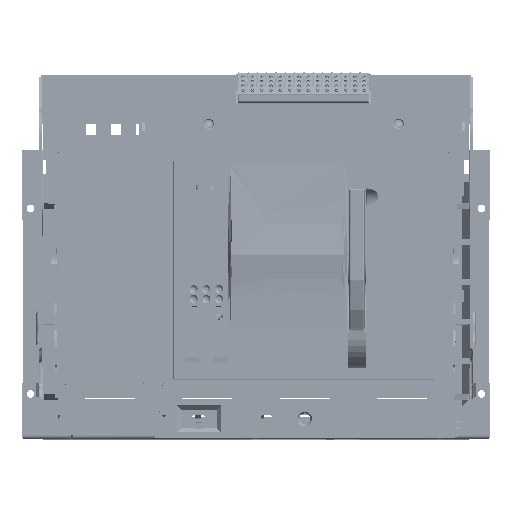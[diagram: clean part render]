
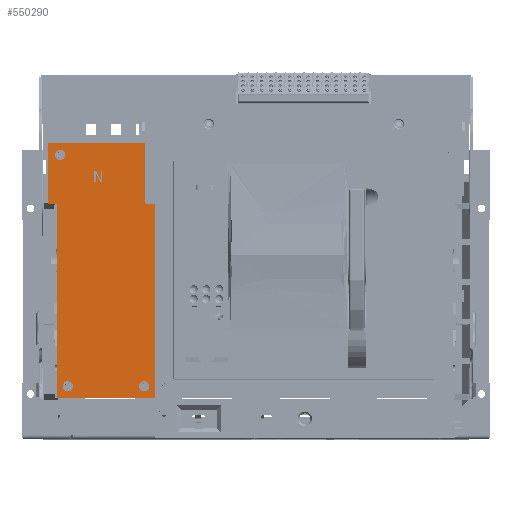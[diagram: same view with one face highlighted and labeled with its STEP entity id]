
A CAD part, top view. The second image highlights one B-rep face of the part: STEP entity #550290.
In plain terms, the highlighted planar face has unit normal (0, 0, 1) as drawn and (0, -1, 0) by its records, which use the part's own axes.
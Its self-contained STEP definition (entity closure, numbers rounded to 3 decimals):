
#546156=CARTESIAN_POINT('',(-55.,0.,186.5));
#546157=DIRECTION('',(0.,-1.,0.));
#546158=DIRECTION('',(-1.,0.,0.));
#546159=AXIS2_PLACEMENT_3D('',#546156,#546157,#546158);
#546164=CARTESIAN_POINT('',(-55.,0.,186.5));
#546165=DIRECTION('',(0.,-1.,0.));
#546166=DIRECTION('',(1.,0.,0.));
#546167=AXIS2_PLACEMENT_3D('',#546164,#546165,#546166);
#546172=CARTESIAN_POINT('',(35.,0.,186.5));
#546173=DIRECTION('',(0.,-1.,0.));
#546174=DIRECTION('',(-1.,0.,0.));
#546175=AXIS2_PLACEMENT_3D('',#546172,#546173,#546174);
#546180=CARTESIAN_POINT('',(35.,0.,186.5));
#546181=DIRECTION('',(0.,-1.,0.));
#546182=DIRECTION('',(1.,0.,0.));
#546183=AXIS2_PLACEMENT_3D('',#546180,#546181,#546182);
#546188=DIRECTION('',(0.,0.,-1.));
#546189=VECTOR('',#546188,10.468);
#546190=CARTESIAN_POINT('',(2.176,0.,-55.));
#546191=LINE('',#546190,#546189);
#546195=DIRECTION('',(-0.466,0.,0.885));
#546196=VECTOR('',#546195,11.833);
#546197=CARTESIAN_POINT('',(2.176,0.,-65.468));
#546198=LINE('',#546197,#546196);
#546202=DIRECTION('',(-1.,0.,0.));
#546203=VECTOR('',#546202,1.986);
#546204=CARTESIAN_POINT('',(-3.342,0.,-55.));
#546205=LINE('',#546204,#546203);
#546209=DIRECTION('',(0.,0.,-1.));
#546210=VECTOR('',#546209,12.);
#546211=CARTESIAN_POINT('',(-5.328,0.,-55.));
#546212=LINE('',#546211,#546210);
#546216=DIRECTION('',(1.,0.,0.));
#546217=VECTOR('',#546216,1.324);
#546218=CARTESIAN_POINT('',(-5.328,0.,-67.));
#546219=LINE('',#546218,#546217);
#546223=DIRECTION('',(0.,0.,1.));
#546224=VECTOR('',#546223,10.213);
#546225=CARTESIAN_POINT('',(-4.004,0.,-67.));
#546226=LINE('',#546225,#546224);
#546230=DIRECTION('',(0.475,0.,-0.88));
#546231=VECTOR('',#546230,11.608);
#546232=CARTESIAN_POINT('',(-4.004,0.,-56.787));
#546233=LINE('',#546232,#546231);
#546237=DIRECTION('',(1.,0.,0.));
#546238=VECTOR('',#546237,1.986);
#546239=CARTESIAN_POINT('',(1.514,0.,-67.));
#546240=LINE('',#546239,#546238);
#546244=DIRECTION('',(0.,0.,1.));
#546245=VECTOR('',#546244,12.);
#546246=CARTESIAN_POINT('',(3.5,0.,-67.));
#546247=LINE('',#546246,#546245);
#546251=DIRECTION('',(-1.,0.,0.));
#546252=VECTOR('',#546251,1.324);
#546253=CARTESIAN_POINT('',(3.5,0.,-55.));
#546254=LINE('',#546253,#546252);
#546258=DIRECTION('',(0.,0.,1.));
#546259=VECTOR('',#546258,228.5);
#546260=CARTESIAN_POINT('',(-67.5,0.,-28.5));
#546261=LINE('',#546260,#546259);
#546265=DIRECTION('',(1.,0.,0.));
#546266=VECTOR('',#546265,115.);
#546267=CARTESIAN_POINT('',(-67.5,0.,200.));
#546268=LINE('',#546267,#546266);
#546272=DIRECTION('',(0.,0.,-1.));
#546273=VECTOR('',#546272,229.);
#546274=CARTESIAN_POINT('',(47.5,0.,200.));
#546275=LINE('',#546274,#546273);
#546279=DIRECTION('',(1.,0.,0.));
#546280=VECTOR('',#546279,11.);
#546281=CARTESIAN_POINT('',(47.5,0.,-29.));
#546282=LINE('',#546281,#546280);
#546286=DIRECTION('',(0.,0.,-1.));
#546287=VECTOR('',#546286,71.);
#546288=CARTESIAN_POINT('',(58.5,0.,-29.));
#546289=LINE('',#546288,#546287);
#546293=DIRECTION('',(-1.,0.,0.));
#546294=VECTOR('',#546293,115.);
#546295=CARTESIAN_POINT('',(58.5,0.,-100.));
#546296=LINE('',#546295,#546294);
#546300=DIRECTION('',(0.,0.,1.));
#546301=VECTOR('',#546300,70.5);
#546302=CARTESIAN_POINT('',(-56.5,0.,-100.));
#546303=LINE('',#546302,#546301);
#546307=DIRECTION('',(-1.,0.,0.));
#546308=VECTOR('',#546307,10.);
#546309=CARTESIAN_POINT('',(-57.,0.,-29.));
#546310=LINE('',#546309,#546308);
#546314=CARTESIAN_POINT('',(44.,0.,-86.5));
#546315=DIRECTION('',(0.,-1.,0.));
#546316=DIRECTION('',(-1.,0.,0.));
#546317=AXIS2_PLACEMENT_3D('',#546314,#546315,#546316);
#546322=CARTESIAN_POINT('',(44.,0.,-86.5));
#546323=DIRECTION('',(0.,-1.,0.));
#546324=DIRECTION('',(1.,0.,0.));
#546325=AXIS2_PLACEMENT_3D('',#546322,#546323,#546324);
#546891=CARTESIAN_POINT('',(-67.,0.,-28.5));
#546892=DIRECTION('',(0.,-1.,0.));
#546893=DIRECTION('',(-1.,0.,0.));
#546894=AXIS2_PLACEMENT_3D('',#546891,#546892,#546893);
#546928=CARTESIAN_POINT('',(-57.,0.,-29.5));
#546929=DIRECTION('',(0.,1.,0.));
#546930=DIRECTION('',(0.,0.,1.));
#546931=AXIS2_PLACEMENT_3D('',#546928,#546929,#546930);
#549598=CARTESIAN_POINT('',(-67.5,0.,200.));
#549599=CARTESIAN_POINT('',(47.5,0.,200.));
#549600=VERTEX_POINT('',#549598);
#549601=VERTEX_POINT('',#549599);
#549602=CARTESIAN_POINT('',(47.5,0.,-29.));
#549603=VERTEX_POINT('',#549602);
#549604=CARTESIAN_POINT('',(58.5,0.,-29.));
#549605=VERTEX_POINT('',#549604);
#549606=CARTESIAN_POINT('',(58.5,0.,-100.));
#549607=VERTEX_POINT('',#549606);
#549608=CARTESIAN_POINT('',(-56.5,0.,-100.));
#549609=VERTEX_POINT('',#549608);
#549872=CARTESIAN_POINT('',(-61.,0.,186.5));
#549873=CARTESIAN_POINT('',(-49.,0.,186.5));
#549874=VERTEX_POINT('',#549872);
#549875=VERTEX_POINT('',#549873);
#549949=CARTESIAN_POINT('',(29.,0.,186.5));
#549950=CARTESIAN_POINT('',(41.,0.,186.5));
#549951=VERTEX_POINT('',#549949);
#549952=VERTEX_POINT('',#549950);
#550010=CARTESIAN_POINT('',(-57.,0.,-29.));
#550012=VERTEX_POINT('',#550010);
#550014=CARTESIAN_POINT('',(-56.5,0.,-29.5));
#550016=VERTEX_POINT('',#550014);
#550019=CARTESIAN_POINT('',(-67.5,0.,-28.5));
#550021=VERTEX_POINT('',#550019);
#550022=CARTESIAN_POINT('',(-67.,0.,-29.));
#550023=VERTEX_POINT('',#550022);
#550034=CARTESIAN_POINT('',(38.,0.,-86.5));
#550035=CARTESIAN_POINT('',(50.,0.,-86.5));
#550036=VERTEX_POINT('',#550034);
#550037=VERTEX_POINT('',#550035);
#550203=CARTESIAN_POINT('',(2.176,0.,-55.));
#550204=CARTESIAN_POINT('',(2.176,0.,-65.468));
#550205=VERTEX_POINT('',#550203);
#550206=VERTEX_POINT('',#550204);
#550207=CARTESIAN_POINT('',(-3.342,0.,-55.));
#550208=VERTEX_POINT('',#550207);
#550209=CARTESIAN_POINT('',(-5.328,0.,-55.));
#550210=VERTEX_POINT('',#550209);
#550211=CARTESIAN_POINT('',(-5.328,0.,-67.));
#550212=VERTEX_POINT('',#550211);
#550213=CARTESIAN_POINT('',(-4.004,0.,-67.));
#550214=VERTEX_POINT('',#550213);
#550215=CARTESIAN_POINT('',(-4.004,0.,-56.787));
#550216=VERTEX_POINT('',#550215);
#550217=CARTESIAN_POINT('',(1.514,0.,-67.));
#550218=VERTEX_POINT('',#550217);
#550219=CARTESIAN_POINT('',(3.5,0.,-67.));
#550220=VERTEX_POINT('',#550219);
#550221=CARTESIAN_POINT('',(3.5,0.,-55.));
#550222=VERTEX_POINT('',#550221);
#550223=CARTESIAN_POINT('',(0.,0.,0.));
#550224=DIRECTION('',(0.,1.,0.));
#550225=DIRECTION('',(1.,0.,0.));
#550226=AXIS2_PLACEMENT_3D('',#550223,#550224,#550225);
#550227=PLANE('',#550226);
#550229=ORIENTED_EDGE('',*,*,#550228,.F.);
#550231=ORIENTED_EDGE('',*,*,#550230,.T.);
#550233=ORIENTED_EDGE('',*,*,#550232,.T.);
#550235=ORIENTED_EDGE('',*,*,#550234,.T.);
#550237=ORIENTED_EDGE('',*,*,#550236,.T.);
#550239=ORIENTED_EDGE('',*,*,#550238,.T.);
#550241=ORIENTED_EDGE('',*,*,#550240,.T.);
#550243=ORIENTED_EDGE('',*,*,#550242,.T.);
#550245=ORIENTED_EDGE('',*,*,#550244,.F.);
#550247=ORIENTED_EDGE('',*,*,#550246,.T.);
#550248=EDGE_LOOP('',(#550229,#550231,#550233,#550235,#550237,#550239,#550241,
#550243,#550245,#550247));
#550249=FACE_OUTER_BOUND('',#550248,.F.);
#550251=ORIENTED_EDGE('',*,*,#550250,.T.);
#550253=ORIENTED_EDGE('',*,*,#550252,.T.);
#550254=EDGE_LOOP('',(#550251,#550253));
#550255=FACE_BOUND('',#550254,.F.);
#550257=ORIENTED_EDGE('',*,*,#550256,.T.);
#550259=ORIENTED_EDGE('',*,*,#550258,.T.);
#550261=ORIENTED_EDGE('',*,*,#550260,.T.);
#550263=ORIENTED_EDGE('',*,*,#550262,.T.);
#550265=ORIENTED_EDGE('',*,*,#550264,.T.);
#550267=ORIENTED_EDGE('',*,*,#550266,.T.);
#550269=ORIENTED_EDGE('',*,*,#550268,.T.);
#550271=ORIENTED_EDGE('',*,*,#550270,.T.);
#550273=ORIENTED_EDGE('',*,*,#550272,.T.);
#550275=ORIENTED_EDGE('',*,*,#550274,.T.);
#550276=EDGE_LOOP('',(#550257,#550259,#550261,#550263,#550265,#550267,#550269,
#550271,#550273,#550275));
#550277=FACE_BOUND('',#550276,.F.);
#550279=ORIENTED_EDGE('',*,*,#550278,.T.);
#550281=ORIENTED_EDGE('',*,*,#550280,.T.);
#550282=EDGE_LOOP('',(#550279,#550281));
#550283=FACE_BOUND('',#550282,.F.);
#550285=ORIENTED_EDGE('',*,*,#550284,.T.);
#550287=ORIENTED_EDGE('',*,*,#550286,.T.);
#550288=EDGE_LOOP('',(#550285,#550287));
#550289=FACE_BOUND('',#550288,.F.);
#550290=ADVANCED_FACE('',(#550249,#550255,#550277,#550283,#550289),#550227,.F.);
#546160=CIRCLE('',#546159,6.);
#546168=CIRCLE('',#546167,6.);
#546176=CIRCLE('',#546175,6.);
#546184=CIRCLE('',#546183,6.);
#546318=CIRCLE('',#546317,6.);
#546326=CIRCLE('',#546325,6.);
#546895=CIRCLE('',#546894,0.5);
#546932=CIRCLE('',#546931,0.5);
#550228=EDGE_CURVE('',#550021,#550023,#546895,.T.);
#550230=EDGE_CURVE('',#550021,#549600,#546261,.T.);
#550232=EDGE_CURVE('',#549600,#549601,#546268,.T.);
#550234=EDGE_CURVE('',#549601,#549603,#546275,.T.);
#550236=EDGE_CURVE('',#549603,#549605,#546282,.T.);
#550238=EDGE_CURVE('',#549605,#549607,#546289,.T.);
#550240=EDGE_CURVE('',#549607,#549609,#546296,.T.);
#550242=EDGE_CURVE('',#549609,#550016,#546303,.T.);
#550244=EDGE_CURVE('',#550012,#550016,#546932,.T.);
#550246=EDGE_CURVE('',#550012,#550023,#546310,.T.);
#550250=EDGE_CURVE('',#549951,#549952,#546176,.T.);
#550252=EDGE_CURVE('',#549952,#549951,#546184,.T.);
#550256=EDGE_CURVE('',#550205,#550206,#546191,.T.);
#550258=EDGE_CURVE('',#550206,#550208,#546198,.T.);
#550260=EDGE_CURVE('',#550208,#550210,#546205,.T.);
#550262=EDGE_CURVE('',#550210,#550212,#546212,.T.);
#550264=EDGE_CURVE('',#550212,#550214,#546219,.T.);
#550266=EDGE_CURVE('',#550214,#550216,#546226,.T.);
#550268=EDGE_CURVE('',#550216,#550218,#546233,.T.);
#550270=EDGE_CURVE('',#550218,#550220,#546240,.T.);
#550272=EDGE_CURVE('',#550220,#550222,#546247,.T.);
#550274=EDGE_CURVE('',#550222,#550205,#546254,.T.);
#550278=EDGE_CURVE('',#549874,#549875,#546160,.T.);
#550280=EDGE_CURVE('',#549875,#549874,#546168,.T.);
#550284=EDGE_CURVE('',#550036,#550037,#546318,.T.);
#550286=EDGE_CURVE('',#550037,#550036,#546326,.T.);
